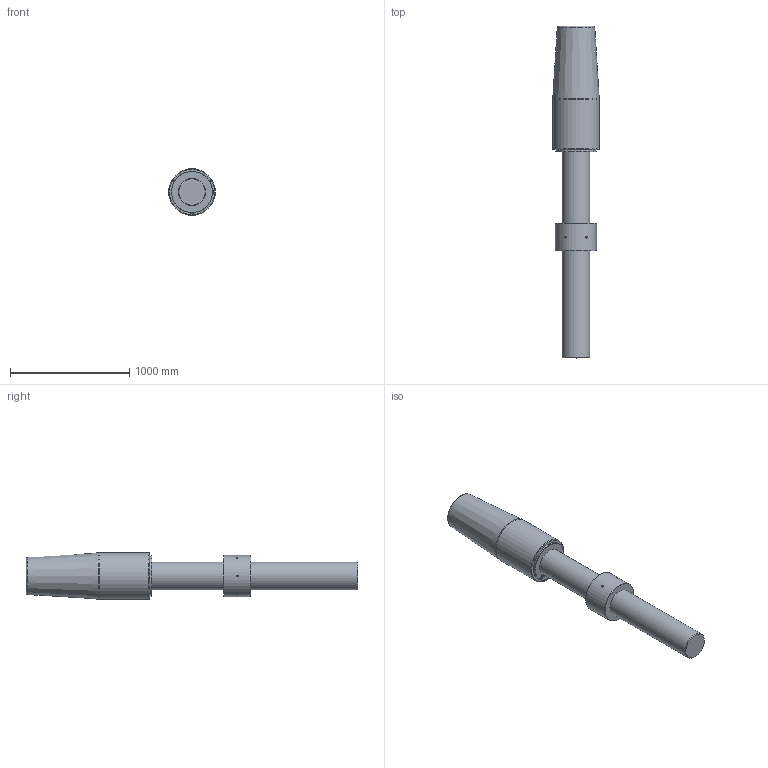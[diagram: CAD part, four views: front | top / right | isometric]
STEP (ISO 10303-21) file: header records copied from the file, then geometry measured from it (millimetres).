
FILE_DESCRIPTION(/* description */ (''),/* implementation_level */ '2;1');
FILE_NAME(/* name */ 'D:\Clienti\Redaelli (inventor)\CYB\STEP\Arrangement\CYB136 52 061 0.stp',/* time_stamp */ '2021-05-08T15:01:15+02:00',/* author */ ('fabri'),/* organization */ (''),/* preprocessor_version */ 'ST-DEVELOPER v16.13',/* originating_system */ 'Autodesk Inventor 2018',/* authorisation */ '');
FILE_SCHEMA (('AUTOMOTIVE_DESIGN { 1 0 10303 214 3 1 1 }'));
Length unit declared in the file: millimetre
Products named in the file (5): CYB136 52 061 0; RNT052 41 051 0_ROD; RNT052 41 051 0_ROD_1; CCY021-51-061-0_BUSH; CCY021-51-061-0
Assembly tree (4 placements, depth 2):
  CYB136 52 061 0
    RNT052 41 051 0_ROD
    RNT052 41 051 0_ROD_1
    CCY021-51-061-0_BUSH
    CCY021-51-061-0
Bounding box: 390 x 2782 x 390 mm (x, y, z)
Volume: 214406546.5 mm3; surface area: 3999981.1 mm2
Topology: 4 solids, 4 shells, 755 faces, 2052 edges, 1363 vertices
Faces by surface type: bspline 392, plane 325, cylinder 18, cone 16, torus 4
Full cylindrical faces by diameter (mm): 15 x6, 20.752 x3, 223.505 x2, 230 x1, 232 x1, 284 x1, 300 x1, 340 x1, 345 x1, 390 x1
Entity records: 25764 total; most frequent: CARTESIAN_POINT 9441, ORIENTED_EDGE 4006, EDGE_CURVE 2003, DIRECTION 1995, VERTEX_POINT 1353, LINE 1165, VECTOR 1165, EDGE_LOOP 856
